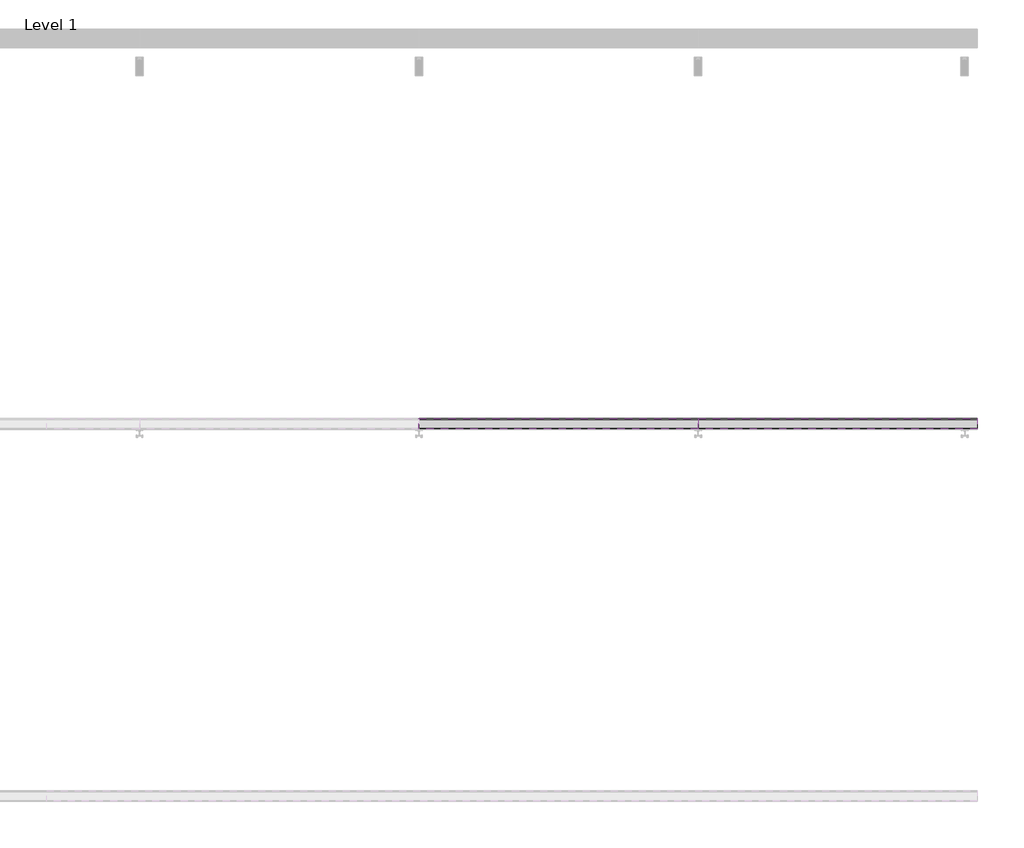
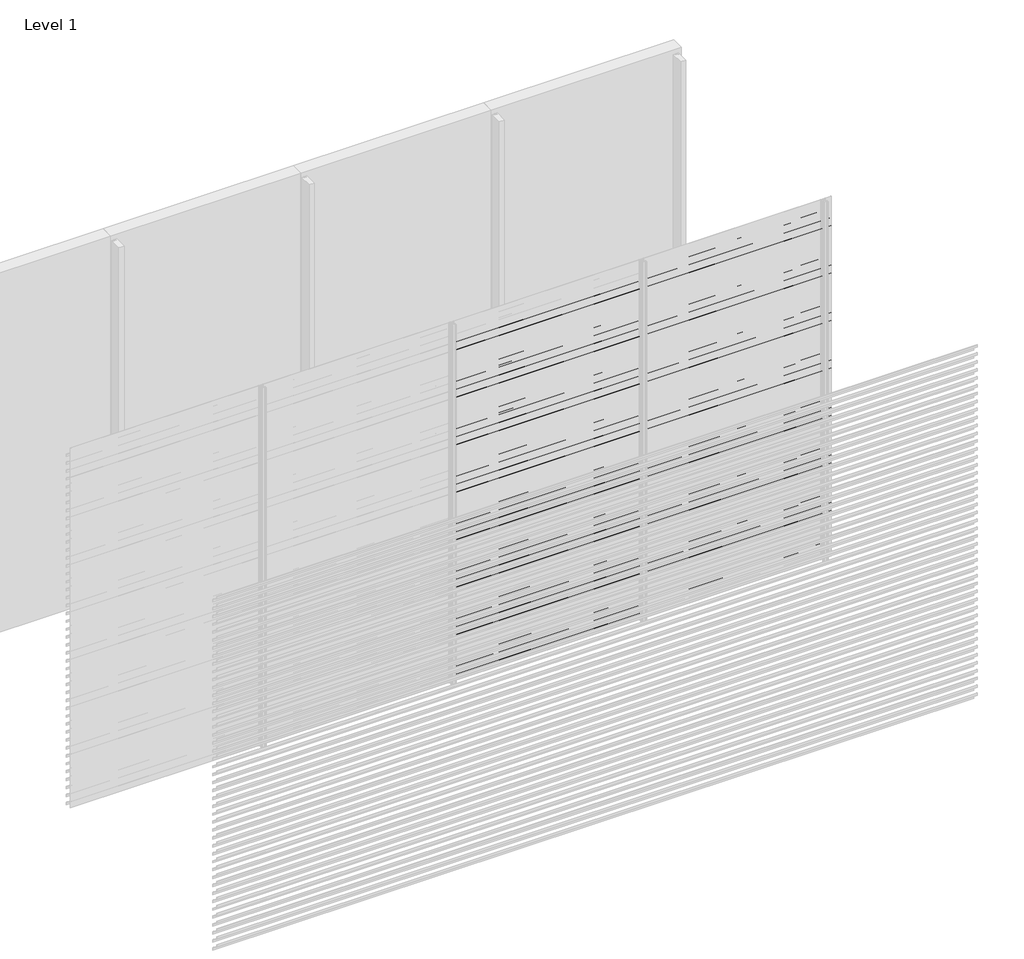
# One storey, part 7 of 25: 87 proxies.
"""IFC4 building model written with IfcOpenShell, lengths in millimetres."""

from ifc_helpers import new_model, si_unit, frame, origin, place, context, project, spatial, polyline, outline, extrude, element, save

model = new_model("IFC4")

# Units and contexts
model_context = context("Model", 3, world=origin())
ifc_project = project(units=[si_unit("LENGTHUNIT", "METRE", prefix="MILLI")], contexts=[model_context])

# Site, building, storey
site = spatial("IfcSite", under=ifc_project)
building = spatial("IfcBuilding", under=site)
storey = spatial("IfcBuildingStorey", under=building, Name="Level 1", Elevation=0.0)

# Proxies
placement = place(None, origin())
element("IfcBuildingElementProxy", 1, Name="Wall Sweeps", at=placement, inside=storey, context=model_context, shape_type="SweptSolid", body=[
    extrude(outline(polyline([(-41943.0, 2781.5), (-41943.0, 2761.5), (-41944.25, 2762.2216933), (-41944.25, 2780.7872415), (-41998.0, 2818.3158044), (-41998.0, 2838.0), (-41996.75, 2838.0), (-41996.75, 2819.0285629), (-41943.0, 2781.5)])), frame((3000.0, 0.0, 0.0), z_axis=(1.0, 0.0, 0.0), x_axis=(0.0, 1.0, 0.0)), (0.0, 0.0, 1.0), 1500.0),
])
element("IfcBuildingElementProxy", 2, Name="Wall Sweeps", at=placement, inside=storey, context=model_context, shape_type="SweptSolid", body=[
    extrude(outline(polyline([(-41943.0, 2715.5), (-41943.0, 2695.5), (-41944.25, 2696.2216933), (-41944.25, 2714.7872415), (-41998.0, 2752.3158044), (-41998.0, 2772.0), (-41996.75, 2772.0), (-41996.75, 2753.0285629), (-41943.0, 2715.5)])), frame((3000.0, 0.0, 0.0), z_axis=(1.0, 0.0, 0.0), x_axis=(0.0, 1.0, 0.0)), (0.0, 0.0, 1.0), 1500.0),
])
element("IfcBuildingElementProxy", 3, Name="Wall Sweeps", at=placement, inside=storey, context=model_context, shape_type="SweptSolid", body=[
    extrude(outline(polyline([(-41943.0, 2649.5), (-41943.0, 2629.5), (-41944.25, 2630.2216933), (-41944.25, 2648.7872415), (-41998.0, 2686.3158044), (-41998.0, 2706.0), (-41996.75, 2706.0), (-41996.75, 2687.0285629), (-41943.0, 2649.5)])), frame((3000.0, 0.0, 0.0), z_axis=(1.0, 0.0, 0.0), x_axis=(0.0, 1.0, 0.0)), (0.0, 0.0, 1.0), 1500.0),
])
element("IfcBuildingElementProxy", 4, Name="Wall Sweeps", at=placement, inside=storey, context=model_context, shape_type="SweptSolid", body=[
    extrude(outline(polyline([(-41943.0, 2583.5), (-41943.0, 2563.5), (-41944.25, 2564.2216933), (-41944.25, 2582.7872415), (-41998.0, 2620.3158044), (-41998.0, 2640.0), (-41996.75, 2640.0), (-41996.75, 2621.0285629), (-41943.0, 2583.5)])), frame((3000.0, 0.0, 0.0), z_axis=(1.0, 0.0, 0.0), x_axis=(0.0, 1.0, 0.0)), (0.0, 0.0, 1.0), 1500.0),
])
element("IfcBuildingElementProxy", 5, Name="Wall Sweeps", at=placement, inside=storey, context=model_context, shape_type="SweptSolid", body=[
    extrude(outline(polyline([(-41943.0, 2517.5), (-41943.0, 2497.5), (-41944.25, 2498.2216933), (-41944.25, 2516.7872415), (-41998.0, 2554.3158044), (-41998.0, 2574.0), (-41996.75, 2574.0), (-41996.75, 2555.0285629), (-41943.0, 2517.5)])), frame((3000.0, 0.0, 0.0), z_axis=(1.0, 0.0, 0.0), x_axis=(0.0, 1.0, 0.0)), (0.0, 0.0, 1.0), 1500.0),
])
element("IfcBuildingElementProxy", 6, Name="Wall Sweeps", at=placement, inside=storey, context=model_context, shape_type="SweptSolid", body=[
    extrude(outline(polyline([(-41943.0, 2451.5), (-41943.0, 2431.5), (-41944.25, 2432.2216933), (-41944.25, 2450.7872415), (-41998.0, 2488.3158044), (-41998.0, 2508.0), (-41996.75, 2508.0), (-41996.75, 2489.0285629), (-41943.0, 2451.5)])), frame((3000.0, 0.0, 0.0), z_axis=(1.0, 0.0, 0.0), x_axis=(0.0, 1.0, 0.0)), (0.0, 0.0, 1.0), 1500.0),
])
element("IfcBuildingElementProxy", 7, Name="Wall Sweeps", at=placement, inside=storey, context=model_context, shape_type="SweptSolid", body=[
    extrude(outline(polyline([(-41943.0, 2385.5), (-41943.0, 2365.5), (-41944.25, 2366.2216933), (-41944.25, 2384.7872415), (-41998.0, 2422.3158044), (-41998.0, 2442.0), (-41996.75, 2442.0), (-41996.75, 2423.0285629), (-41943.0, 2385.5)])), frame((3000.0, 0.0, 0.0), z_axis=(1.0, 0.0, 0.0), x_axis=(0.0, 1.0, 0.0)), (0.0, 0.0, 1.0), 1500.0),
])
element("IfcBuildingElementProxy", 8, Name="Wall Sweeps", at=placement, inside=storey, context=model_context, shape_type="SweptSolid", body=[
    extrude(outline(polyline([(-41943.0, 2319.5), (-41943.0, 2299.5), (-41944.25, 2300.2216933), (-41944.25, 2318.7872415), (-41998.0, 2356.3158044), (-41998.0, 2376.0), (-41996.75, 2376.0), (-41996.75, 2357.0285629), (-41943.0, 2319.5)])), frame((3000.0, 0.0, 0.0), z_axis=(1.0, 0.0, 0.0), x_axis=(0.0, 1.0, 0.0)), (0.0, 0.0, 1.0), 1500.0),
])
element("IfcBuildingElementProxy", 9, Name="Wall Sweeps", at=placement, inside=storey, context=model_context, shape_type="SweptSolid", body=[
    extrude(outline(polyline([(-41943.0, 2253.5), (-41943.0, 2233.5), (-41944.25, 2234.2216933), (-41944.25, 2252.7872415), (-41998.0, 2290.3158044), (-41998.0, 2310.0), (-41996.75, 2310.0), (-41996.75, 2291.0285629), (-41943.0, 2253.5)])), frame((3000.0, 0.0, 0.0), z_axis=(1.0, 0.0, 0.0), x_axis=(0.0, 1.0, 0.0)), (0.0, 0.0, 1.0), 1500.0),
])
element("IfcBuildingElementProxy", 10, Name="Wall Sweeps", at=placement, inside=storey, context=model_context, shape_type="SweptSolid", body=[
    extrude(outline(polyline([(-41943.0, 2187.5), (-41943.0, 2167.5), (-41944.25, 2168.2216933), (-41944.25, 2186.7872415), (-41998.0, 2224.3158044), (-41998.0, 2244.0), (-41996.75, 2244.0), (-41996.75, 2225.0285629), (-41943.0, 2187.5)])), frame((3000.0, 0.0, 0.0), z_axis=(1.0, 0.0, 0.0), x_axis=(0.0, 1.0, 0.0)), (0.0, 0.0, 1.0), 1500.0),
])
element("IfcBuildingElementProxy", 11, Name="Wall Sweeps", at=placement, inside=storey, context=model_context, shape_type="SweptSolid", body=[
    extrude(outline(polyline([(-41943.0, 2121.5), (-41943.0, 2101.5), (-41944.25, 2102.2216933), (-41944.25, 2120.7872415), (-41998.0, 2158.3158044), (-41998.0, 2178.0), (-41996.75, 2178.0), (-41996.75, 2159.0285629), (-41943.0, 2121.5)])), frame((3000.0, 0.0, 0.0), z_axis=(1.0, 0.0, 0.0), x_axis=(0.0, 1.0, 0.0)), (0.0, 0.0, 1.0), 1500.0),
])
element("IfcBuildingElementProxy", 12, Name="Wall Sweeps", at=placement, inside=storey, context=model_context, shape_type="SweptSolid", body=[
    extrude(outline(polyline([(-41943.0, 2055.5), (-41943.0, 2035.5), (-41944.25, 2036.2216933), (-41944.25, 2054.7872415), (-41998.0, 2092.3158044), (-41998.0, 2112.0), (-41996.75, 2112.0), (-41996.75, 2093.0285629), (-41943.0, 2055.5)])), frame((3000.0, 0.0, 0.0), z_axis=(1.0, 0.0, 0.0), x_axis=(0.0, 1.0, 0.0)), (0.0, 0.0, 1.0), 1500.0),
])
element("IfcBuildingElementProxy", 13, Name="Wall Sweeps", at=placement, inside=storey, context=model_context, shape_type="SweptSolid", body=[
    extrude(outline(polyline([(-41943.0, 1989.5), (-41943.0, 1969.5), (-41944.25, 1970.2216933), (-41944.25, 1988.7872415), (-41998.0, 2026.3158044), (-41998.0, 2046.0), (-41996.75, 2046.0), (-41996.75, 2027.0285629), (-41943.0, 1989.5)])), frame((3000.0, 0.0, 0.0), z_axis=(1.0, 0.0, 0.0), x_axis=(0.0, 1.0, 0.0)), (0.0, 0.0, 1.0), 1500.0),
])
element("IfcBuildingElementProxy", 14, Name="Wall Sweeps", at=placement, inside=storey, context=model_context, shape_type="SweptSolid", body=[
    extrude(outline(polyline([(-41943.0, 1923.5), (-41943.0, 1903.5), (-41944.25, 1904.2216933), (-41944.25, 1922.7872415), (-41998.0, 1960.3158044), (-41998.0, 1980.0), (-41996.75, 1980.0), (-41996.75, 1961.0285629), (-41943.0, 1923.5)])), frame((3000.0, 0.0, 0.0), z_axis=(1.0, 0.0, 0.0), x_axis=(0.0, 1.0, 0.0)), (0.0, 0.0, 1.0), 1500.0),
])
element("IfcBuildingElementProxy", 15, Name="Wall Sweeps", at=placement, inside=storey, context=model_context, shape_type="SweptSolid", body=[
    extrude(outline(polyline([(-41943.0, 1857.5), (-41943.0, 1837.5), (-41944.25, 1838.2216933), (-41944.25, 1856.7872415), (-41998.0, 1894.3158044), (-41998.0, 1914.0), (-41996.75, 1914.0), (-41996.75, 1895.0285629), (-41943.0, 1857.5)])), frame((3000.0, 0.0, 0.0), z_axis=(1.0, 0.0, 0.0), x_axis=(0.0, 1.0, 0.0)), (0.0, 0.0, 1.0), 1500.0),
])
element("IfcBuildingElementProxy", 16, Name="Wall Sweeps", at=placement, inside=storey, context=model_context, shape_type="SweptSolid", body=[
    extrude(outline(polyline([(-41943.0, 1791.5), (-41943.0, 1771.5), (-41944.25, 1772.2216933), (-41944.25, 1790.7872415), (-41998.0, 1828.3158044), (-41998.0, 1848.0), (-41996.75, 1848.0), (-41996.75, 1829.0285629), (-41943.0, 1791.5)])), frame((3000.0, 0.0, 0.0), z_axis=(1.0, 0.0, 0.0), x_axis=(0.0, 1.0, 0.0)), (0.0, 0.0, 1.0), 1500.0),
])
element("IfcBuildingElementProxy", 17, Name="Wall Sweeps", at=placement, inside=storey, context=model_context, shape_type="SweptSolid", body=[
    extrude(outline(polyline([(-41943.0, 1725.5), (-41943.0, 1705.5), (-41944.25, 1706.2216933), (-41944.25, 1724.7872415), (-41998.0, 1762.3158044), (-41998.0, 1782.0), (-41996.75, 1782.0), (-41996.75, 1763.0285629), (-41943.0, 1725.5)])), frame((3000.0, 0.0, 0.0), z_axis=(1.0, 0.0, 0.0), x_axis=(0.0, 1.0, 0.0)), (0.0, 0.0, 1.0), 1500.0),
])
element("IfcBuildingElementProxy", 18, Name="Wall Sweeps", at=placement, inside=storey, context=model_context, shape_type="SweptSolid", body=[
    extrude(outline(polyline([(-41943.0, 1659.5), (-41943.0, 1639.5), (-41944.25, 1640.2216933), (-41944.25, 1658.7872415), (-41998.0, 1696.3158044), (-41998.0, 1716.0), (-41996.75, 1716.0), (-41996.75, 1697.0285629), (-41943.0, 1659.5)])), frame((3000.0, 0.0, 0.0), z_axis=(1.0, 0.0, 0.0), x_axis=(0.0, 1.0, 0.0)), (0.0, 0.0, 1.0), 1500.0),
])
element("IfcBuildingElementProxy", 19, Name="Wall Sweeps", at=placement, inside=storey, context=model_context, shape_type="SweptSolid", body=[
    extrude(outline(polyline([(-41943.0, 1593.5), (-41943.0, 1573.5), (-41944.25, 1574.2216933), (-41944.25, 1592.7872415), (-41998.0, 1630.3158044), (-41998.0, 1650.0), (-41996.75, 1650.0), (-41996.75, 1631.0285629), (-41943.0, 1593.5)])), frame((3000.0, 0.0, 0.0), z_axis=(1.0, 0.0, 0.0), x_axis=(0.0, 1.0, 0.0)), (0.0, 0.0, 1.0), 1500.0),
])
element("IfcBuildingElementProxy", 20, Name="Wall Sweeps", at=placement, inside=storey, context=model_context, shape_type="SweptSolid", body=[
    extrude(outline(polyline([(-41943.0, 1527.5), (-41943.0, 1507.5), (-41944.25, 1508.2216933), (-41944.25, 1526.7872415), (-41998.0, 1564.3158044), (-41998.0, 1584.0), (-41996.75, 1584.0), (-41996.75, 1565.0285629), (-41943.0, 1527.5)])), frame((3000.0, 0.0, 0.0), z_axis=(1.0, 0.0, 0.0), x_axis=(0.0, 1.0, 0.0)), (0.0, 0.0, 1.0), 1500.0),
])
element("IfcBuildingElementProxy", 21, Name="Wall Sweeps", at=placement, inside=storey, context=model_context, shape_type="SweptSolid", body=[
    extrude(outline(polyline([(-41943.0, 1461.5), (-41943.0, 1441.5), (-41944.25, 1442.2216933), (-41944.25, 1460.7872415), (-41998.0, 1498.3158044), (-41998.0, 1518.0), (-41996.75, 1518.0), (-41996.75, 1499.0285629), (-41943.0, 1461.5)])), frame((3000.0, 0.0, 0.0), z_axis=(1.0, 0.0, 0.0), x_axis=(0.0, 1.0, 0.0)), (0.0, 0.0, 1.0), 1500.0),
])
element("IfcBuildingElementProxy", 22, Name="Wall Sweeps", at=placement, inside=storey, context=model_context, shape_type="SweptSolid", body=[
    extrude(outline(polyline([(-41943.0, 1395.5), (-41943.0, 1375.5), (-41944.25, 1376.2216933), (-41944.25, 1394.7872415), (-41998.0, 1432.3158044), (-41998.0, 1452.0), (-41996.75, 1452.0), (-41996.75, 1433.0285629), (-41943.0, 1395.5)])), frame((3000.0, 0.0, 0.0), z_axis=(1.0, 0.0, 0.0), x_axis=(0.0, 1.0, 0.0)), (0.0, 0.0, 1.0), 1500.0),
])
element("IfcBuildingElementProxy", 23, Name="Wall Sweeps", at=placement, inside=storey, context=model_context, shape_type="SweptSolid", body=[
    extrude(outline(polyline([(-41943.0, 1329.5), (-41943.0, 1309.5), (-41944.25, 1310.2216933), (-41944.25, 1328.7872415), (-41998.0, 1366.3158044), (-41998.0, 1386.0), (-41996.75, 1386.0), (-41996.75, 1367.0285629), (-41943.0, 1329.5)])), frame((3000.0, 0.0, 0.0), z_axis=(1.0, 0.0, 0.0), x_axis=(0.0, 1.0, 0.0)), (0.0, 0.0, 1.0), 1500.0),
])
element("IfcBuildingElementProxy", 24, Name="Wall Sweeps", at=placement, inside=storey, context=model_context, shape_type="SweptSolid", body=[
    extrude(outline(polyline([(-41943.0, 1263.5), (-41943.0, 1243.5), (-41944.25, 1244.2216933), (-41944.25, 1262.7872415), (-41998.0, 1300.3158044), (-41998.0, 1320.0), (-41996.75, 1320.0), (-41996.75, 1301.0285629), (-41943.0, 1263.5)])), frame((3000.0, 0.0, 0.0), z_axis=(1.0, 0.0, 0.0), x_axis=(0.0, 1.0, 0.0)), (0.0, 0.0, 1.0), 1500.0),
])
element("IfcBuildingElementProxy", 25, Name="Wall Sweeps", at=placement, inside=storey, context=model_context, shape_type="SweptSolid", body=[
    extrude(outline(polyline([(-41943.0, 1197.5), (-41943.0, 1177.5), (-41944.25, 1178.2216933), (-41944.25, 1196.7872415), (-41998.0, 1234.3158044), (-41998.0, 1254.0), (-41996.75, 1254.0), (-41996.75, 1235.0285629), (-41943.0, 1197.5)])), frame((3000.0, 0.0, 0.0), z_axis=(1.0, 0.0, 0.0), x_axis=(0.0, 1.0, 0.0)), (0.0, 0.0, 1.0), 1500.0),
])
element("IfcBuildingElementProxy", 26, Name="Wall Sweeps", at=placement, inside=storey, context=model_context, shape_type="SweptSolid", body=[
    extrude(outline(polyline([(-41943.0, 1131.5), (-41943.0, 1111.5), (-41944.25, 1112.2216933), (-41944.25, 1130.7872415), (-41998.0, 1168.3158044), (-41998.0, 1188.0), (-41996.75, 1188.0), (-41996.75, 1169.0285629), (-41943.0, 1131.5)])), frame((3000.0, 0.0, 0.0), z_axis=(1.0, 0.0, 0.0), x_axis=(0.0, 1.0, 0.0)), (0.0, 0.0, 1.0), 1500.0),
])
element("IfcBuildingElementProxy", 27, Name="Wall Sweeps", at=placement, inside=storey, context=model_context, shape_type="SweptSolid", body=[
    extrude(outline(polyline([(-41943.0, 1065.5), (-41943.0, 1045.5), (-41944.25, 1046.2216933), (-41944.25, 1064.7872415), (-41998.0, 1102.3158044), (-41998.0, 1122.0), (-41996.75, 1122.0), (-41996.75, 1103.0285629), (-41943.0, 1065.5)])), frame((3000.0, 0.0, 0.0), z_axis=(1.0, 0.0, 0.0), x_axis=(0.0, 1.0, 0.0)), (0.0, 0.0, 1.0), 1500.0),
])
element("IfcBuildingElementProxy", 28, Name="Wall Sweeps", at=placement, inside=storey, context=model_context, shape_type="SweptSolid", body=[
    extrude(outline(polyline([(-41943.0, 999.5), (-41943.0, 979.5), (-41944.25, 980.2216933), (-41944.25, 998.7872415), (-41998.0, 1036.3158044), (-41998.0, 1056.0), (-41996.75, 1056.0), (-41996.75, 1037.0285629), (-41943.0, 999.5)])), frame((3000.0, 0.0, 0.0), z_axis=(1.0, 0.0, 0.0), x_axis=(0.0, 1.0, 0.0)), (0.0, 0.0, 1.0), 1500.0),
])
element("IfcBuildingElementProxy", 29, Name="Wall Sweeps", at=placement, inside=storey, context=model_context, shape_type="SweptSolid", body=[
    extrude(outline(polyline([(-41943.0, 933.5), (-41943.0, 913.5), (-41944.25, 914.2216933), (-41944.25, 932.7872415), (-41998.0, 970.3158044), (-41998.0, 990.0), (-41996.75, 990.0), (-41996.75, 971.0285629), (-41943.0, 933.5)])), frame((3000.0, 0.0, 0.0), z_axis=(1.0, 0.0, 0.0), x_axis=(0.0, 1.0, 0.0)), (0.0, 0.0, 1.0), 1500.0),
])
element("IfcBuildingElementProxy", 30, Name="Wall Sweeps", at=placement, inside=storey, context=model_context, shape_type="SweptSolid", body=[
    extrude(outline(polyline([(-41943.0, 867.5), (-41943.0, 847.5), (-41944.25, 848.2216933), (-41944.25, 866.7872415), (-41998.0, 904.3158044), (-41998.0, 924.0), (-41996.75, 924.0), (-41996.75, 905.0285629), (-41943.0, 867.5)])), frame((3000.0, 0.0, 0.0), z_axis=(1.0, 0.0, 0.0), x_axis=(0.0, 1.0, 0.0)), (0.0, 0.0, 1.0), 1500.0),
])
element("IfcBuildingElementProxy", 31, Name="Wall Sweeps", at=placement, inside=storey, context=model_context, shape_type="SweptSolid", body=[
    extrude(outline(polyline([(-41943.0, 801.5), (-41943.0, 781.5), (-41944.25, 782.2216933), (-41944.25, 800.7872415), (-41998.0, 838.3158044), (-41998.0, 858.0), (-41996.75, 858.0), (-41996.75, 839.0285629), (-41943.0, 801.5)])), frame((3000.0, 0.0, 0.0), z_axis=(1.0, 0.0, 0.0), x_axis=(0.0, 1.0, 0.0)), (0.0, 0.0, 1.0), 1500.0),
])
element("IfcBuildingElementProxy", 32, Name="Wall Sweeps", at=placement, inside=storey, context=model_context, shape_type="SweptSolid", body=[
    extrude(outline(polyline([(-41943.0, 735.5), (-41943.0, 715.5), (-41944.25, 716.2216933), (-41944.25, 734.7872415), (-41998.0, 772.3158044), (-41998.0, 792.0), (-41996.75, 792.0), (-41996.75, 773.0285629), (-41943.0, 735.5)])), frame((3000.0, 0.0, 0.0), z_axis=(1.0, 0.0, 0.0), x_axis=(0.0, 1.0, 0.0)), (0.0, 0.0, 1.0), 1500.0),
])
element("IfcBuildingElementProxy", 33, Name="Wall Sweeps", at=placement, inside=storey, context=model_context, shape_type="SweptSolid", body=[
    extrude(outline(polyline([(-41943.0, 669.5), (-41943.0, 649.5), (-41944.25, 650.2216933), (-41944.25, 668.7872415), (-41998.0, 706.3158044), (-41998.0, 726.0), (-41996.75, 726.0), (-41996.75, 707.0285629), (-41943.0, 669.5)])), frame((3000.0, 0.0, 0.0), z_axis=(1.0, 0.0, 0.0), x_axis=(0.0, 1.0, 0.0)), (0.0, 0.0, 1.0), 1500.0),
])
element("IfcBuildingElementProxy", 34, Name="Wall Sweeps", at=placement, inside=storey, context=model_context, shape_type="SweptSolid", body=[
    extrude(outline(polyline([(-41943.0, 603.5), (-41943.0, 583.5), (-41944.25, 584.2216933), (-41944.25, 602.7872415), (-41998.0, 640.3158044), (-41998.0, 660.0), (-41996.75, 660.0), (-41996.75, 641.0285629), (-41943.0, 603.5)])), frame((3000.0, 0.0, 0.0), z_axis=(1.0, 0.0, 0.0), x_axis=(0.0, 1.0, 0.0)), (0.0, 0.0, 1.0), 1500.0),
])
element("IfcBuildingElementProxy", 35, Name="Wall Sweeps", at=placement, inside=storey, context=model_context, shape_type="SweptSolid", body=[
    extrude(outline(polyline([(-41943.0, 537.5), (-41943.0, 517.5), (-41944.25, 518.2216933), (-41944.25, 536.7872415), (-41998.0, 574.3158044), (-41998.0, 594.0), (-41996.75, 594.0), (-41996.75, 575.0285629), (-41943.0, 537.5)])), frame((3000.0, 0.0, 0.0), z_axis=(1.0, 0.0, 0.0), x_axis=(0.0, 1.0, 0.0)), (0.0, 0.0, 1.0), 1500.0),
])
element("IfcBuildingElementProxy", 36, Name="Wall Sweeps", at=placement, inside=storey, context=model_context, shape_type="SweptSolid", body=[
    extrude(outline(polyline([(-41943.0, 471.5), (-41943.0, 451.5), (-41944.25, 452.2216933), (-41944.25, 470.7872415), (-41998.0, 508.3158044), (-41998.0, 528.0), (-41996.75, 528.0), (-41996.75, 509.0285629), (-41943.0, 471.5)])), frame((3000.0, 0.0, 0.0), z_axis=(1.0, 0.0, 0.0), x_axis=(0.0, 1.0, 0.0)), (0.0, 0.0, 1.0), 1500.0),
])
element("IfcBuildingElementProxy", 37, Name="Wall Sweeps", at=placement, inside=storey, context=model_context, shape_type="SweptSolid", body=[
    extrude(outline(polyline([(-41943.0, 405.5), (-41943.0, 385.5), (-41944.25, 386.2216933), (-41944.25, 404.7872415), (-41998.0, 442.3158044), (-41998.0, 462.0), (-41996.75, 462.0), (-41996.75, 443.0285629), (-41943.0, 405.5)])), frame((3000.0, 0.0, 0.0), z_axis=(1.0, 0.0, 0.0), x_axis=(0.0, 1.0, 0.0)), (0.0, 0.0, 1.0), 1500.0),
])
element("IfcBuildingElementProxy", 38, Name="Wall Sweeps", at=placement, inside=storey, context=model_context, shape_type="SweptSolid", body=[
    extrude(outline(polyline([(-41943.0, 339.5), (-41943.0, 319.5), (-41944.25, 320.2216933), (-41944.25, 338.7872415), (-41998.0, 376.3158044), (-41998.0, 396.0), (-41996.75, 396.0), (-41996.75, 377.0285629), (-41943.0, 339.5)])), frame((3000.0, 0.0, 0.0), z_axis=(1.0, 0.0, 0.0), x_axis=(0.0, 1.0, 0.0)), (0.0, 0.0, 1.0), 1500.0),
])
element("IfcBuildingElementProxy", 39, Name="Wall Sweeps", at=placement, inside=storey, context=model_context, shape_type="SweptSolid", body=[
    extrude(outline(polyline([(-41943.0, 273.5), (-41943.0, 253.5), (-41944.25, 254.2216933), (-41944.25, 272.7872415), (-41998.0, 310.3158044), (-41998.0, 330.0), (-41996.75, 330.0), (-41996.75, 311.0285629), (-41943.0, 273.5)])), frame((3000.0, 0.0, 0.0), z_axis=(1.0, 0.0, 0.0), x_axis=(0.0, 1.0, 0.0)), (0.0, 0.0, 1.0), 1500.0),
])
element("IfcBuildingElementProxy", 40, Name="Wall Sweeps", at=placement, inside=storey, context=model_context, shape_type="SweptSolid", body=[
    extrude(outline(polyline([(-41943.0, 207.5), (-41943.0, 187.5), (-41944.25, 188.2216933), (-41944.25, 206.7872415), (-41998.0, 244.3158044), (-41998.0, 264.0), (-41996.75, 264.0), (-41996.75, 245.0285629), (-41943.0, 207.5)])), frame((3000.0, 0.0, 0.0), z_axis=(1.0, 0.0, 0.0), x_axis=(0.0, 1.0, 0.0)), (0.0, 0.0, 1.0), 1500.0),
])
element("IfcBuildingElementProxy", 41, Name="Wall Sweeps", at=placement, inside=storey, context=model_context, shape_type="SweptSolid", body=[
    extrude(outline(polyline([(-41943.0, 141.5), (-41943.0, 121.5), (-41944.25, 122.2216933), (-41944.25, 140.7872415), (-41998.0, 178.3158044), (-41998.0, 198.0), (-41996.75, 198.0), (-41996.75, 179.0285629), (-41943.0, 141.5)])), frame((3000.0, 0.0, 0.0), z_axis=(1.0, 0.0, 0.0), x_axis=(0.0, 1.0, 0.0)), (0.0, 0.0, 1.0), 1500.0),
])
element("IfcBuildingElementProxy", 42, Name="Wall Sweeps", at=placement, inside=storey, context=model_context, shape_type="SweptSolid", body=[
    extrude(outline(polyline([(-41943.0, 75.5), (-41943.0, 55.5), (-41944.25, 56.2216933), (-41944.25, 74.7872415), (-41998.0, 112.3158044), (-41998.0, 132.0), (-41996.75, 132.0), (-41996.75, 113.0285629), (-41943.0, 75.5)])), frame((3000.0, 0.0, 0.0), z_axis=(1.0, 0.0, 0.0), x_axis=(0.0, 1.0, 0.0)), (0.0, 0.0, 1.0), 1500.0),
])
element("IfcBuildingElementProxy", 43, Name="Wall Sweeps", at=placement, inside=storey, context=model_context, shape_type="SweptSolid", body=[
    extrude(outline(polyline([(-41943.0, 9.5), (-41943.0, -10.5), (-41944.25, -9.7783067), (-41944.25, 8.7872415), (-41998.0, 46.3158044), (-41998.0, 66.0), (-41996.75, 66.0), (-41996.75, 47.0285629), (-41943.0, 9.5)])), frame((3000.0, 0.0, 0.0), z_axis=(1.0, 0.0, 0.0), x_axis=(0.0, 1.0, 0.0)), (0.0, 0.0, 1.0), 1500.0),
])
element("IfcBuildingElementProxy", 44, Name="Wall Sweeps", at=placement, inside=storey, context=model_context, shape_type="SweptSolid", body=[
    extrude(outline(polyline([(-41943.0, 2913.5), (-41943.0, 2893.5), (-41944.25, 2894.2216933), (-41944.25, 2912.7872415), (-41998.0, 2950.3158044), (-41998.0, 2970.0), (-41996.75, 2970.0), (-41996.75, 2951.0285629), (-41943.0, 2913.5)])), frame((4500.0, 0.0, 0.0), z_axis=(1.0, 0.0, 0.0), x_axis=(0.0, 1.0, 0.0)), (0.0, 0.0, 1.0), 1500.0),
])
element("IfcBuildingElementProxy", 45, Name="Wall Sweeps", at=placement, inside=storey, context=model_context, shape_type="SweptSolid", body=[
    extrude(outline(polyline([(-41943.0, 2847.5), (-41943.0, 2827.5), (-41944.25, 2828.2216933), (-41944.25, 2846.7872415), (-41998.0, 2884.3158044), (-41998.0, 2904.0), (-41996.75, 2904.0), (-41996.75, 2885.0285629), (-41943.0, 2847.5)])), frame((4500.0, 0.0, 0.0), z_axis=(1.0, 0.0, 0.0), x_axis=(0.0, 1.0, 0.0)), (0.0, 0.0, 1.0), 1500.0),
])
element("IfcBuildingElementProxy", 46, Name="Wall Sweeps", at=placement, inside=storey, context=model_context, shape_type="SweptSolid", body=[
    extrude(outline(polyline([(-41943.0, 2781.5), (-41943.0, 2761.5), (-41944.25, 2762.2216933), (-41944.25, 2780.7872415), (-41998.0, 2818.3158044), (-41998.0, 2838.0), (-41996.75, 2838.0), (-41996.75, 2819.0285629), (-41943.0, 2781.5)])), frame((4500.0, 0.0, 0.0), z_axis=(1.0, 0.0, 0.0), x_axis=(0.0, 1.0, 0.0)), (0.0, 0.0, 1.0), 1500.0),
])
element("IfcBuildingElementProxy", 47, Name="Wall Sweeps", at=placement, inside=storey, context=model_context, shape_type="SweptSolid", body=[
    extrude(outline(polyline([(-41943.0, 2715.5), (-41943.0, 2695.5), (-41944.25, 2696.2216933), (-41944.25, 2714.7872415), (-41998.0, 2752.3158044), (-41998.0, 2772.0), (-41996.75, 2772.0), (-41996.75, 2753.0285629), (-41943.0, 2715.5)])), frame((4500.0, 0.0, 0.0), z_axis=(1.0, 0.0, 0.0), x_axis=(0.0, 1.0, 0.0)), (0.0, 0.0, 1.0), 1500.0),
])
element("IfcBuildingElementProxy", 48, Name="Wall Sweeps", at=placement, inside=storey, context=model_context, shape_type="SweptSolid", body=[
    extrude(outline(polyline([(-41943.0, 2649.5), (-41943.0, 2629.5), (-41944.25, 2630.2216933), (-41944.25, 2648.7872415), (-41998.0, 2686.3158044), (-41998.0, 2706.0), (-41996.75, 2706.0), (-41996.75, 2687.0285629), (-41943.0, 2649.5)])), frame((4500.0, 0.0, 0.0), z_axis=(1.0, 0.0, 0.0), x_axis=(0.0, 1.0, 0.0)), (0.0, 0.0, 1.0), 1500.0),
])
element("IfcBuildingElementProxy", 49, Name="Wall Sweeps", at=placement, inside=storey, context=model_context, shape_type="SweptSolid", body=[
    extrude(outline(polyline([(-41943.0, 2583.5), (-41943.0, 2563.5), (-41944.25, 2564.2216933), (-41944.25, 2582.7872415), (-41998.0, 2620.3158044), (-41998.0, 2640.0), (-41996.75, 2640.0), (-41996.75, 2621.0285629), (-41943.0, 2583.5)])), frame((4500.0, 0.0, 0.0), z_axis=(1.0, 0.0, 0.0), x_axis=(0.0, 1.0, 0.0)), (0.0, 0.0, 1.0), 1500.0),
])
element("IfcBuildingElementProxy", 50, Name="Wall Sweeps", at=placement, inside=storey, context=model_context, shape_type="SweptSolid", body=[
    extrude(outline(polyline([(-41943.0, 2517.5), (-41943.0, 2497.5), (-41944.25, 2498.2216933), (-41944.25, 2516.7872415), (-41998.0, 2554.3158044), (-41998.0, 2574.0), (-41996.75, 2574.0), (-41996.75, 2555.0285629), (-41943.0, 2517.5)])), frame((4500.0, 0.0, 0.0), z_axis=(1.0, 0.0, 0.0), x_axis=(0.0, 1.0, 0.0)), (0.0, 0.0, 1.0), 1500.0),
])
element("IfcBuildingElementProxy", 51, Name="Wall Sweeps", at=placement, inside=storey, context=model_context, shape_type="SweptSolid", body=[
    extrude(outline(polyline([(-41943.0, 2451.5), (-41943.0, 2431.5), (-41944.25, 2432.2216933), (-41944.25, 2450.7872415), (-41998.0, 2488.3158044), (-41998.0, 2508.0), (-41996.75, 2508.0), (-41996.75, 2489.0285629), (-41943.0, 2451.5)])), frame((4500.0, 0.0, 0.0), z_axis=(1.0, 0.0, 0.0), x_axis=(0.0, 1.0, 0.0)), (0.0, 0.0, 1.0), 1500.0),
])
element("IfcBuildingElementProxy", 52, Name="Wall Sweeps", at=placement, inside=storey, context=model_context, shape_type="SweptSolid", body=[
    extrude(outline(polyline([(-41943.0, 2385.5), (-41943.0, 2365.5), (-41944.25, 2366.2216933), (-41944.25, 2384.7872415), (-41998.0, 2422.3158044), (-41998.0, 2442.0), (-41996.75, 2442.0), (-41996.75, 2423.0285629), (-41943.0, 2385.5)])), frame((4500.0, 0.0, 0.0), z_axis=(1.0, 0.0, 0.0), x_axis=(0.0, 1.0, 0.0)), (0.0, 0.0, 1.0), 1500.0),
])
element("IfcBuildingElementProxy", 53, Name="Wall Sweeps", at=placement, inside=storey, context=model_context, shape_type="SweptSolid", body=[
    extrude(outline(polyline([(-41943.0, 2319.5), (-41943.0, 2299.5), (-41944.25, 2300.2216933), (-41944.25, 2318.7872415), (-41998.0, 2356.3158044), (-41998.0, 2376.0), (-41996.75, 2376.0), (-41996.75, 2357.0285629), (-41943.0, 2319.5)])), frame((4500.0, 0.0, 0.0), z_axis=(1.0, 0.0, 0.0), x_axis=(0.0, 1.0, 0.0)), (0.0, 0.0, 1.0), 1500.0),
])
element("IfcBuildingElementProxy", 54, Name="Wall Sweeps", at=placement, inside=storey, context=model_context, shape_type="SweptSolid", body=[
    extrude(outline(polyline([(-41943.0, 2253.5), (-41943.0, 2233.5), (-41944.25, 2234.2216933), (-41944.25, 2252.7872415), (-41998.0, 2290.3158044), (-41998.0, 2310.0), (-41996.75, 2310.0), (-41996.75, 2291.0285629), (-41943.0, 2253.5)])), frame((4500.0, 0.0, 0.0), z_axis=(1.0, 0.0, 0.0), x_axis=(0.0, 1.0, 0.0)), (0.0, 0.0, 1.0), 1500.0),
])
element("IfcBuildingElementProxy", 55, Name="Wall Sweeps", at=placement, inside=storey, context=model_context, shape_type="SweptSolid", body=[
    extrude(outline(polyline([(-41943.0, 2187.5), (-41943.0, 2167.5), (-41944.25, 2168.2216933), (-41944.25, 2186.7872415), (-41998.0, 2224.3158044), (-41998.0, 2244.0), (-41996.75, 2244.0), (-41996.75, 2225.0285629), (-41943.0, 2187.5)])), frame((4500.0, 0.0, 0.0), z_axis=(1.0, 0.0, 0.0), x_axis=(0.0, 1.0, 0.0)), (0.0, 0.0, 1.0), 1500.0),
])
element("IfcBuildingElementProxy", 56, Name="Wall Sweeps", at=placement, inside=storey, context=model_context, shape_type="SweptSolid", body=[
    extrude(outline(polyline([(-41943.0, 2121.5), (-41943.0, 2101.5), (-41944.25, 2102.2216933), (-41944.25, 2120.7872415), (-41998.0, 2158.3158044), (-41998.0, 2178.0), (-41996.75, 2178.0), (-41996.75, 2159.0285629), (-41943.0, 2121.5)])), frame((4500.0, 0.0, 0.0), z_axis=(1.0, 0.0, 0.0), x_axis=(0.0, 1.0, 0.0)), (0.0, 0.0, 1.0), 1500.0),
])
element("IfcBuildingElementProxy", 57, Name="Wall Sweeps", at=placement, inside=storey, context=model_context, shape_type="SweptSolid", body=[
    extrude(outline(polyline([(-41943.0, 2055.5), (-41943.0, 2035.5), (-41944.25, 2036.2216933), (-41944.25, 2054.7872415), (-41998.0, 2092.3158044), (-41998.0, 2112.0), (-41996.75, 2112.0), (-41996.75, 2093.0285629), (-41943.0, 2055.5)])), frame((4500.0, 0.0, 0.0), z_axis=(1.0, 0.0, 0.0), x_axis=(0.0, 1.0, 0.0)), (0.0, 0.0, 1.0), 1500.0),
])
element("IfcBuildingElementProxy", 58, Name="Wall Sweeps", at=placement, inside=storey, context=model_context, shape_type="SweptSolid", body=[
    extrude(outline(polyline([(-41943.0, 1989.5), (-41943.0, 1969.5), (-41944.25, 1970.2216933), (-41944.25, 1988.7872415), (-41998.0, 2026.3158044), (-41998.0, 2046.0), (-41996.75, 2046.0), (-41996.75, 2027.0285629), (-41943.0, 1989.5)])), frame((4500.0, 0.0, 0.0), z_axis=(1.0, 0.0, 0.0), x_axis=(0.0, 1.0, 0.0)), (0.0, 0.0, 1.0), 1500.0),
])
element("IfcBuildingElementProxy", 59, Name="Wall Sweeps", at=placement, inside=storey, context=model_context, shape_type="SweptSolid", body=[
    extrude(outline(polyline([(-41943.0, 1923.5), (-41943.0, 1903.5), (-41944.25, 1904.2216933), (-41944.25, 1922.7872415), (-41998.0, 1960.3158044), (-41998.0, 1980.0), (-41996.75, 1980.0), (-41996.75, 1961.0285629), (-41943.0, 1923.5)])), frame((4500.0, 0.0, 0.0), z_axis=(1.0, 0.0, 0.0), x_axis=(0.0, 1.0, 0.0)), (0.0, 0.0, 1.0), 1500.0),
])
element("IfcBuildingElementProxy", 60, Name="Wall Sweeps", at=placement, inside=storey, context=model_context, shape_type="SweptSolid", body=[
    extrude(outline(polyline([(-41943.0, 1857.5), (-41943.0, 1837.5), (-41944.25, 1838.2216933), (-41944.25, 1856.7872415), (-41998.0, 1894.3158044), (-41998.0, 1914.0), (-41996.75, 1914.0), (-41996.75, 1895.0285629), (-41943.0, 1857.5)])), frame((4500.0, 0.0, 0.0), z_axis=(1.0, 0.0, 0.0), x_axis=(0.0, 1.0, 0.0)), (0.0, 0.0, 1.0), 1500.0),
])
element("IfcBuildingElementProxy", 61, Name="Wall Sweeps", at=placement, inside=storey, context=model_context, shape_type="SweptSolid", body=[
    extrude(outline(polyline([(-41943.0, 1791.5), (-41943.0, 1771.5), (-41944.25, 1772.2216933), (-41944.25, 1790.7872415), (-41998.0, 1828.3158044), (-41998.0, 1848.0), (-41996.75, 1848.0), (-41996.75, 1829.0285629), (-41943.0, 1791.5)])), frame((4500.0, 0.0, 0.0), z_axis=(1.0, 0.0, 0.0), x_axis=(0.0, 1.0, 0.0)), (0.0, 0.0, 1.0), 1500.0),
])
element("IfcBuildingElementProxy", 62, Name="Wall Sweeps", at=placement, inside=storey, context=model_context, shape_type="SweptSolid", body=[
    extrude(outline(polyline([(-41943.0, 1725.5), (-41943.0, 1705.5), (-41944.25, 1706.2216933), (-41944.25, 1724.7872415), (-41998.0, 1762.3158044), (-41998.0, 1782.0), (-41996.75, 1782.0), (-41996.75, 1763.0285629), (-41943.0, 1725.5)])), frame((4500.0, 0.0, 0.0), z_axis=(1.0, 0.0, 0.0), x_axis=(0.0, 1.0, 0.0)), (0.0, 0.0, 1.0), 1500.0),
])
element("IfcBuildingElementProxy", 63, Name="Wall Sweeps", at=placement, inside=storey, context=model_context, shape_type="SweptSolid", body=[
    extrude(outline(polyline([(-41943.0, 1659.5), (-41943.0, 1639.5), (-41944.25, 1640.2216933), (-41944.25, 1658.7872415), (-41998.0, 1696.3158044), (-41998.0, 1716.0), (-41996.75, 1716.0), (-41996.75, 1697.0285629), (-41943.0, 1659.5)])), frame((4500.0, 0.0, 0.0), z_axis=(1.0, 0.0, 0.0), x_axis=(0.0, 1.0, 0.0)), (0.0, 0.0, 1.0), 1500.0),
])
element("IfcBuildingElementProxy", 64, Name="Wall Sweeps", at=placement, inside=storey, context=model_context, shape_type="SweptSolid", body=[
    extrude(outline(polyline([(-41943.0, 1593.5), (-41943.0, 1573.5), (-41944.25, 1574.2216933), (-41944.25, 1592.7872415), (-41998.0, 1630.3158044), (-41998.0, 1650.0), (-41996.75, 1650.0), (-41996.75, 1631.0285629), (-41943.0, 1593.5)])), frame((4500.0, 0.0, 0.0), z_axis=(1.0, 0.0, 0.0), x_axis=(0.0, 1.0, 0.0)), (0.0, 0.0, 1.0), 1500.0),
])
element("IfcBuildingElementProxy", 65, Name="Wall Sweeps", at=placement, inside=storey, context=model_context, shape_type="SweptSolid", body=[
    extrude(outline(polyline([(-41943.0, 1527.5), (-41943.0, 1507.5), (-41944.25, 1508.2216933), (-41944.25, 1526.7872415), (-41998.0, 1564.3158044), (-41998.0, 1584.0), (-41996.75, 1584.0), (-41996.75, 1565.0285629), (-41943.0, 1527.5)])), frame((4500.0, 0.0, 0.0), z_axis=(1.0, 0.0, 0.0), x_axis=(0.0, 1.0, 0.0)), (0.0, 0.0, 1.0), 1500.0),
])
element("IfcBuildingElementProxy", 66, Name="Wall Sweeps", at=placement, inside=storey, context=model_context, shape_type="SweptSolid", body=[
    extrude(outline(polyline([(-41943.0, 1461.5), (-41943.0, 1441.5), (-41944.25, 1442.2216933), (-41944.25, 1460.7872415), (-41998.0, 1498.3158044), (-41998.0, 1518.0), (-41996.75, 1518.0), (-41996.75, 1499.0285629), (-41943.0, 1461.5)])), frame((4500.0, 0.0, 0.0), z_axis=(1.0, 0.0, 0.0), x_axis=(0.0, 1.0, 0.0)), (0.0, 0.0, 1.0), 1500.0),
])
element("IfcBuildingElementProxy", 67, Name="Wall Sweeps", at=placement, inside=storey, context=model_context, shape_type="SweptSolid", body=[
    extrude(outline(polyline([(-41943.0, 1395.5), (-41943.0, 1375.5), (-41944.25, 1376.2216933), (-41944.25, 1394.7872415), (-41998.0, 1432.3158044), (-41998.0, 1452.0), (-41996.75, 1452.0), (-41996.75, 1433.0285629), (-41943.0, 1395.5)])), frame((4500.0, 0.0, 0.0), z_axis=(1.0, 0.0, 0.0), x_axis=(0.0, 1.0, 0.0)), (0.0, 0.0, 1.0), 1500.0),
])
element("IfcBuildingElementProxy", 68, Name="Wall Sweeps", at=placement, inside=storey, context=model_context, shape_type="SweptSolid", body=[
    extrude(outline(polyline([(-41943.0, 1329.5), (-41943.0, 1309.5), (-41944.25, 1310.2216933), (-41944.25, 1328.7872415), (-41998.0, 1366.3158044), (-41998.0, 1386.0), (-41996.75, 1386.0), (-41996.75, 1367.0285629), (-41943.0, 1329.5)])), frame((4500.0, 0.0, 0.0), z_axis=(1.0, 0.0, 0.0), x_axis=(0.0, 1.0, 0.0)), (0.0, 0.0, 1.0), 1500.0),
])
element("IfcBuildingElementProxy", 69, Name="Wall Sweeps", at=placement, inside=storey, context=model_context, shape_type="SweptSolid", body=[
    extrude(outline(polyline([(-41943.0, 1263.5), (-41943.0, 1243.5), (-41944.25, 1244.2216933), (-41944.25, 1262.7872415), (-41998.0, 1300.3158044), (-41998.0, 1320.0), (-41996.75, 1320.0), (-41996.75, 1301.0285629), (-41943.0, 1263.5)])), frame((4500.0, 0.0, 0.0), z_axis=(1.0, 0.0, 0.0), x_axis=(0.0, 1.0, 0.0)), (0.0, 0.0, 1.0), 1500.0),
])
element("IfcBuildingElementProxy", 70, Name="Wall Sweeps", at=placement, inside=storey, context=model_context, shape_type="SweptSolid", body=[
    extrude(outline(polyline([(-41943.0, 1197.5), (-41943.0, 1177.5), (-41944.25, 1178.2216933), (-41944.25, 1196.7872415), (-41998.0, 1234.3158044), (-41998.0, 1254.0), (-41996.75, 1254.0), (-41996.75, 1235.0285629), (-41943.0, 1197.5)])), frame((4500.0, 0.0, 0.0), z_axis=(1.0, 0.0, 0.0), x_axis=(0.0, 1.0, 0.0)), (0.0, 0.0, 1.0), 1500.0),
])
element("IfcBuildingElementProxy", 71, Name="Wall Sweeps", at=placement, inside=storey, context=model_context, shape_type="SweptSolid", body=[
    extrude(outline(polyline([(-41943.0, 1131.5), (-41943.0, 1111.5), (-41944.25, 1112.2216933), (-41944.25, 1130.7872415), (-41998.0, 1168.3158044), (-41998.0, 1188.0), (-41996.75, 1188.0), (-41996.75, 1169.0285629), (-41943.0, 1131.5)])), frame((4500.0, 0.0, 0.0), z_axis=(1.0, 0.0, 0.0), x_axis=(0.0, 1.0, 0.0)), (0.0, 0.0, 1.0), 1500.0),
])
element("IfcBuildingElementProxy", 72, Name="Wall Sweeps", at=placement, inside=storey, context=model_context, shape_type="SweptSolid", body=[
    extrude(outline(polyline([(-41943.0, 1065.5), (-41943.0, 1045.5), (-41944.25, 1046.2216933), (-41944.25, 1064.7872415), (-41998.0, 1102.3158044), (-41998.0, 1122.0), (-41996.75, 1122.0), (-41996.75, 1103.0285629), (-41943.0, 1065.5)])), frame((4500.0, 0.0, 0.0), z_axis=(1.0, 0.0, 0.0), x_axis=(0.0, 1.0, 0.0)), (0.0, 0.0, 1.0), 1500.0),
])
element("IfcBuildingElementProxy", 73, Name="Wall Sweeps", at=placement, inside=storey, context=model_context, shape_type="SweptSolid", body=[
    extrude(outline(polyline([(-41943.0, 999.5), (-41943.0, 979.5), (-41944.25, 980.2216933), (-41944.25, 998.7872415), (-41998.0, 1036.3158044), (-41998.0, 1056.0), (-41996.75, 1056.0), (-41996.75, 1037.0285629), (-41943.0, 999.5)])), frame((4500.0, 0.0, 0.0), z_axis=(1.0, 0.0, 0.0), x_axis=(0.0, 1.0, 0.0)), (0.0, 0.0, 1.0), 1500.0),
])
element("IfcBuildingElementProxy", 74, Name="Wall Sweeps", at=placement, inside=storey, context=model_context, shape_type="SweptSolid", body=[
    extrude(outline(polyline([(-41943.0, 933.5), (-41943.0, 913.5), (-41944.25, 914.2216933), (-41944.25, 932.7872415), (-41998.0, 970.3158044), (-41998.0, 990.0), (-41996.75, 990.0), (-41996.75, 971.0285629), (-41943.0, 933.5)])), frame((4500.0, 0.0, 0.0), z_axis=(1.0, 0.0, 0.0), x_axis=(0.0, 1.0, 0.0)), (0.0, 0.0, 1.0), 1500.0),
])
element("IfcBuildingElementProxy", 75, Name="Wall Sweeps", at=placement, inside=storey, context=model_context, shape_type="SweptSolid", body=[
    extrude(outline(polyline([(-41943.0, 867.5), (-41943.0, 847.5), (-41944.25, 848.2216933), (-41944.25, 866.7872415), (-41998.0, 904.3158044), (-41998.0, 924.0), (-41996.75, 924.0), (-41996.75, 905.0285629), (-41943.0, 867.5)])), frame((4500.0, 0.0, 0.0), z_axis=(1.0, 0.0, 0.0), x_axis=(0.0, 1.0, 0.0)), (0.0, 0.0, 1.0), 1500.0),
])
element("IfcBuildingElementProxy", 76, Name="Wall Sweeps", at=placement, inside=storey, context=model_context, shape_type="SweptSolid", body=[
    extrude(outline(polyline([(-41943.0, 801.5), (-41943.0, 781.5), (-41944.25, 782.2216933), (-41944.25, 800.7872415), (-41998.0, 838.3158044), (-41998.0, 858.0), (-41996.75, 858.0), (-41996.75, 839.0285629), (-41943.0, 801.5)])), frame((4500.0, 0.0, 0.0), z_axis=(1.0, 0.0, 0.0), x_axis=(0.0, 1.0, 0.0)), (0.0, 0.0, 1.0), 1500.0),
])
element("IfcBuildingElementProxy", 77, Name="Wall Sweeps", at=placement, inside=storey, context=model_context, shape_type="SweptSolid", body=[
    extrude(outline(polyline([(-41943.0, 735.5), (-41943.0, 715.5), (-41944.25, 716.2216933), (-41944.25, 734.7872415), (-41998.0, 772.3158044), (-41998.0, 792.0), (-41996.75, 792.0), (-41996.75, 773.0285629), (-41943.0, 735.5)])), frame((4500.0, 0.0, 0.0), z_axis=(1.0, 0.0, 0.0), x_axis=(0.0, 1.0, 0.0)), (0.0, 0.0, 1.0), 1500.0),
])
element("IfcBuildingElementProxy", 78, Name="Wall Sweeps", at=placement, inside=storey, context=model_context, shape_type="SweptSolid", body=[
    extrude(outline(polyline([(-41943.0, 669.5), (-41943.0, 649.5), (-41944.25, 650.2216933), (-41944.25, 668.7872415), (-41998.0, 706.3158044), (-41998.0, 726.0), (-41996.75, 726.0), (-41996.75, 707.0285629), (-41943.0, 669.5)])), frame((4500.0, 0.0, 0.0), z_axis=(1.0, 0.0, 0.0), x_axis=(0.0, 1.0, 0.0)), (0.0, 0.0, 1.0), 1500.0),
])
element("IfcBuildingElementProxy", 79, Name="Wall Sweeps", at=placement, inside=storey, context=model_context, shape_type="SweptSolid", body=[
    extrude(outline(polyline([(-41943.0, 603.5), (-41943.0, 583.5), (-41944.25, 584.2216933), (-41944.25, 602.7872415), (-41998.0, 640.3158044), (-41998.0, 660.0), (-41996.75, 660.0), (-41996.75, 641.0285629), (-41943.0, 603.5)])), frame((4500.0, 0.0, 0.0), z_axis=(1.0, 0.0, 0.0), x_axis=(0.0, 1.0, 0.0)), (0.0, 0.0, 1.0), 1500.0),
])
element("IfcBuildingElementProxy", 80, Name="Wall Sweeps", at=placement, inside=storey, context=model_context, shape_type="SweptSolid", body=[
    extrude(outline(polyline([(-41943.0, 537.5), (-41943.0, 517.5), (-41944.25, 518.2216933), (-41944.25, 536.7872415), (-41998.0, 574.3158044), (-41998.0, 594.0), (-41996.75, 594.0), (-41996.75, 575.0285629), (-41943.0, 537.5)])), frame((4500.0, 0.0, 0.0), z_axis=(1.0, 0.0, 0.0), x_axis=(0.0, 1.0, 0.0)), (0.0, 0.0, 1.0), 1500.0),
])
element("IfcBuildingElementProxy", 81, Name="Wall Sweeps", at=placement, inside=storey, context=model_context, shape_type="SweptSolid", body=[
    extrude(outline(polyline([(-41943.0, 471.5), (-41943.0, 451.5), (-41944.25, 452.2216933), (-41944.25, 470.7872415), (-41998.0, 508.3158044), (-41998.0, 528.0), (-41996.75, 528.0), (-41996.75, 509.0285629), (-41943.0, 471.5)])), frame((4500.0, 0.0, 0.0), z_axis=(1.0, 0.0, 0.0), x_axis=(0.0, 1.0, 0.0)), (0.0, 0.0, 1.0), 1500.0),
])
element("IfcBuildingElementProxy", 82, Name="Wall Sweeps", at=placement, inside=storey, context=model_context, shape_type="SweptSolid", body=[
    extrude(outline(polyline([(-41943.0, 405.5), (-41943.0, 385.5), (-41944.25, 386.2216933), (-41944.25, 404.7872415), (-41998.0, 442.3158044), (-41998.0, 462.0), (-41996.75, 462.0), (-41996.75, 443.0285629), (-41943.0, 405.5)])), frame((4500.0, 0.0, 0.0), z_axis=(1.0, 0.0, 0.0), x_axis=(0.0, 1.0, 0.0)), (0.0, 0.0, 1.0), 1500.0),
])
element("IfcBuildingElementProxy", 83, Name="Wall Sweeps", at=placement, inside=storey, context=model_context, shape_type="SweptSolid", body=[
    extrude(outline(polyline([(-41943.0, 339.5), (-41943.0, 319.5), (-41944.25, 320.2216933), (-41944.25, 338.7872415), (-41998.0, 376.3158044), (-41998.0, 396.0), (-41996.75, 396.0), (-41996.75, 377.0285629), (-41943.0, 339.5)])), frame((4500.0, 0.0, 0.0), z_axis=(1.0, 0.0, 0.0), x_axis=(0.0, 1.0, 0.0)), (0.0, 0.0, 1.0), 1500.0),
])
element("IfcBuildingElementProxy", 84, Name="Wall Sweeps", at=placement, inside=storey, context=model_context, shape_type="SweptSolid", body=[
    extrude(outline(polyline([(-41943.0, 273.5), (-41943.0, 253.5), (-41944.25, 254.2216933), (-41944.25, 272.7872415), (-41998.0, 310.3158044), (-41998.0, 330.0), (-41996.75, 330.0), (-41996.75, 311.0285629), (-41943.0, 273.5)])), frame((4500.0, 0.0, 0.0), z_axis=(1.0, 0.0, 0.0), x_axis=(0.0, 1.0, 0.0)), (0.0, 0.0, 1.0), 1500.0),
])
element("IfcBuildingElementProxy", 85, Name="Wall Sweeps", at=placement, inside=storey, context=model_context, shape_type="SweptSolid", body=[
    extrude(outline(polyline([(-41943.0, 207.5), (-41943.0, 187.5), (-41944.25, 188.2216933), (-41944.25, 206.7872415), (-41998.0, 244.3158044), (-41998.0, 264.0), (-41996.75, 264.0), (-41996.75, 245.0285629), (-41943.0, 207.5)])), frame((4500.0, 0.0, 0.0), z_axis=(1.0, 0.0, 0.0), x_axis=(0.0, 1.0, 0.0)), (0.0, 0.0, 1.0), 1500.0),
])
element("IfcBuildingElementProxy", 86, Name="Wall Sweeps", at=placement, inside=storey, context=model_context, shape_type="SweptSolid", body=[
    extrude(outline(polyline([(-41943.0, 141.5), (-41943.0, 121.5), (-41944.25, 122.2216933), (-41944.25, 140.7872415), (-41998.0, 178.3158044), (-41998.0, 198.0), (-41996.75, 198.0), (-41996.75, 179.0285629), (-41943.0, 141.5)])), frame((4500.0, 0.0, 0.0), z_axis=(1.0, 0.0, 0.0), x_axis=(0.0, 1.0, 0.0)), (0.0, 0.0, 1.0), 1500.0),
])
element("IfcBuildingElementProxy", 87, Name="Wall Sweeps", at=placement, inside=storey, context=model_context, shape_type="SweptSolid", body=[
    extrude(outline(polyline([(-41943.0, 75.5), (-41943.0, 55.5), (-41944.25, 56.2216933), (-41944.25, 74.7872415), (-41998.0, 112.3158044), (-41998.0, 132.0), (-41996.75, 132.0), (-41996.75, 113.0285629), (-41943.0, 75.5)])), frame((4500.0, 0.0, 0.0), z_axis=(1.0, 0.0, 0.0), x_axis=(0.0, 1.0, 0.0)), (0.0, 0.0, 1.0), 1500.0),
])

save(model, "model.ifc")
